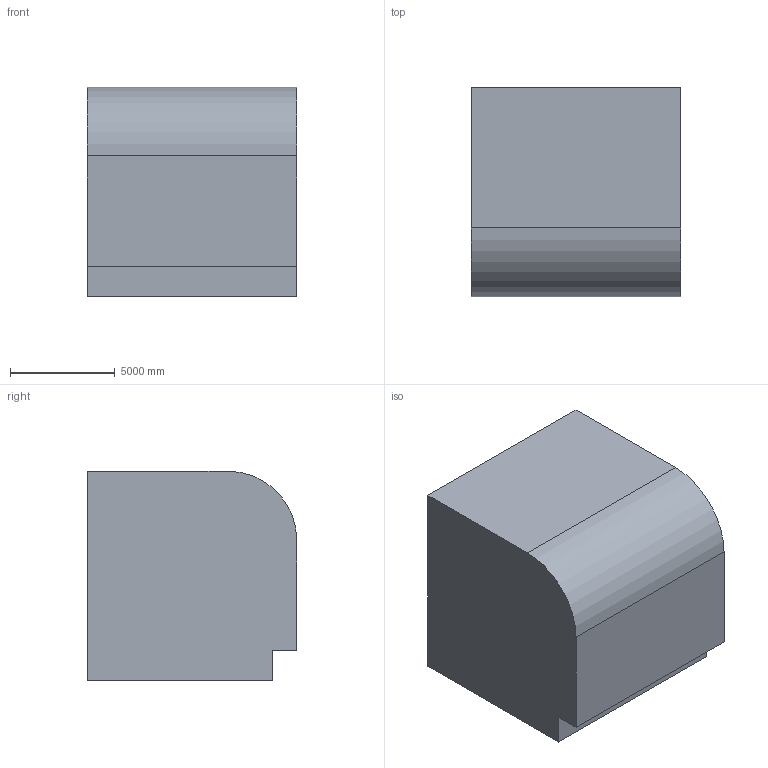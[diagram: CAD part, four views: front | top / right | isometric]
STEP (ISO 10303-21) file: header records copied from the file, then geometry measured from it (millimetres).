
FILE_DESCRIPTION (( 'STEP AP203' ), '1' );
FILE_NAME ('12.STEP', '2022-09-02T13:40:16', ( 'user' ), ( '' ), 'SwSTEP 2.0', 'SolidWorks 2021', '' );
FILE_SCHEMA (( 'CONFIG_CONTROL_DESIGN' ));
Length unit declared in the file: centimetre
Products named in the file (1): 12
Bounding box: 10000 x 10000 x 10000 mm (x, y, z)
Volume: 960372340757.7 mm3; surface area: 578017806.7 mm2
Topology: 1 solids, 1 shells, 9 faces, 21 edges, 14 vertices
Faces by surface type: plane 8, cylinder 1
Entity records: 334 total; most frequent: CARTESIAN_POINT 45, DIRECTION 43, ORIENTED_EDGE 42, EDGE_CURVE 21, LINE 19, VECTOR 19, VERTEX_POINT 14, AXIS2_PLACEMENT_3D 12
